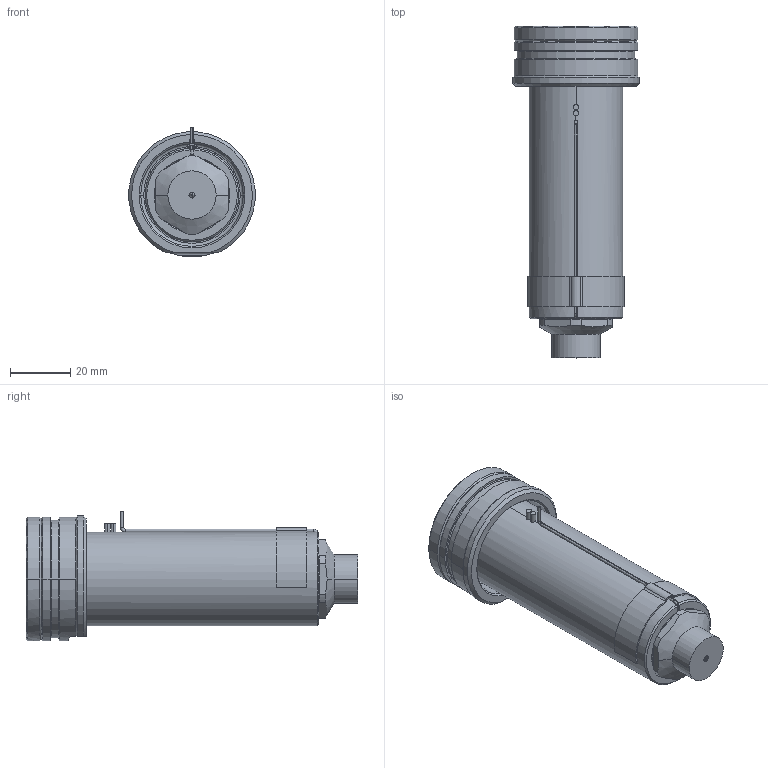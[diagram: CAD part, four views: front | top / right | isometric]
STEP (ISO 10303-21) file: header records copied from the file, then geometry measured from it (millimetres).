
FILE_DESCRIPTION((''),'2;1');
FILE_NAME('EO12_PG-FB_WR_090_SW','2024-02-19T11:38:57',('sundharh'),(''),'CREO PARAMETRIC BY PTC INC, 2023154','CREO PARAMETRIC BY PTC INC, 2023154','');
FILE_SCHEMA(('CONFIG_CONTROL_DESIGN'));
Length unit declared in the file: millimetre
Products named in the file (1): EO12_PG-FB_WR_090_SW
Bounding box: 41.85 x 110 x 43 mm (x, y, z)
Volume: 75065.4 mm3; surface area: 23007.9 mm2
Topology: 2 solids, 3 shells, 218 faces, 583 edges, 359 vertices
Faces by surface type: cylinder 82, plane 60, cone 43, torus 27, sphere 3, bspline 3
Entity records: 7875 total; most frequent: CARTESIAN_POINT 2304, DIRECTION 1227, ORIENTED_EDGE 1158, EDGE_CURVE 579, AXIS2_PLACEMENT_3D 516, VERTEX_POINT 359, CIRCLE 301, EDGE_LOOP 236
